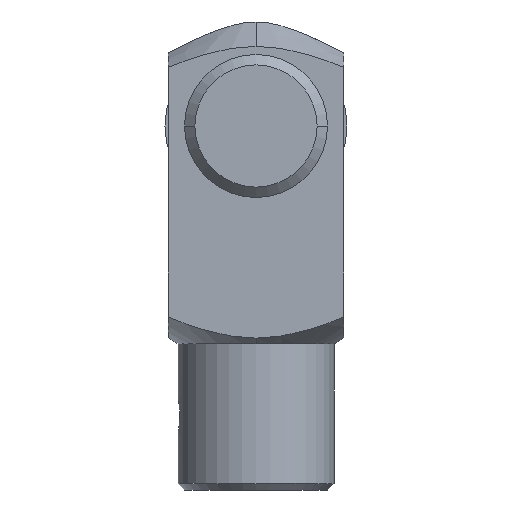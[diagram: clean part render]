
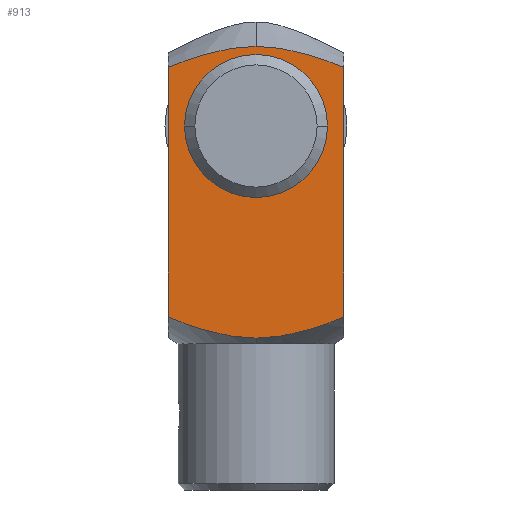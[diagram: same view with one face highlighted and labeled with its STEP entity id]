
A CAD part, left-side view. The second image highlights one B-rep face of the part: STEP entity #913.
In plain terms, the highlighted planar face has unit normal (-1, 0, 0).
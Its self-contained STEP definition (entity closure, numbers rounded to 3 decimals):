
#4 = CARTESIAN_POINT ( 'NONE',  ( -13.5, 13.5, 234.019 ) ) ;
#79 = EDGE_LOOP ( 'NONE', ( #1594, #3026 ) ) ;
#173 = VERTEX_POINT ( 'NONE', #927 ) ;
#202 = CARTESIAN_POINT ( 'NONE',  ( -13.5, 0., 192.366 ) ) ;
#215 = CARTESIAN_POINT ( 'NONE',  ( -13.5, 0., 237.247 ) ) ;
#240 = ORIENTED_EDGE ( 'NONE', *, *, #1827, .T. ) ;
#325 = DIRECTION ( 'NONE',  ( 0., 1., 0. ) ) ;
#431 = CIRCLE ( 'NONE', #2216, 7. ) ;
#454 = FACE_OUTER_BOUND ( 'NONE', #937, .T. ) ;
#479 = AXIS2_PLACEMENT_3D ( 'NONE', #1847, #2810, #1126 ) ;
#609 = VERTEX_POINT ( 'NONE', #2452 ) ;
#679 =( BOUNDED_CURVE ( )  B_SPLINE_CURVE ( 2, ( #2140, #1668, #3086 ),
 .UNSPECIFIED., .F., .F. ) 
 B_SPLINE_CURVE_WITH_KNOTS ( ( 3, 3 ),
 ( 0.433, 2.047 ),
 .UNSPECIFIED. ) 
 CURVE ( )  GEOMETRIC_REPRESENTATION_ITEM ( )  RATIONAL_B_SPLINE_CURVE ( ( 1.144, 1.381, 1.381 ) ) 
 REPRESENTATION_ITEM ( '' )  );
#741 = CARTESIAN_POINT ( 'NONE',  ( -13.5, -13.5, 195.595 ) ) ;
#750 = CARTESIAN_POINT ( 'NONE',  ( -13.5, 0., 225. ) ) ;
#817 = ORIENTED_EDGE ( 'NONE', *, *, #1956, .T. ) ;
#900 = CARTESIAN_POINT ( 'NONE',  ( -13.5, 13.5, 195.595 ) ) ;
#913 = ADVANCED_FACE ( 'NONE', ( #3126, #454 ), #2124, .T. ) ;
#914 = CARTESIAN_POINT ( 'NONE',  ( -13.5, 5.592, 237.247 ) ) ;
#927 = CARTESIAN_POINT ( 'NONE',  ( -13.5, -13.5, 234.019 ) ) ;
#937 = EDGE_LOOP ( 'NONE', ( #2607, #2367, #2696, #817, #240, #2562 ) ) ;
#949 = LINE ( 'NONE', #1890, #2859 ) ;
#1001 =( BOUNDED_CURVE ( )  B_SPLINE_CURVE ( 2, ( #1454, #2628, #741 ),
 .UNSPECIFIED., .F., .T. ) 
 B_SPLINE_CURVE_WITH_KNOTS ( ( 3, 3 ),
 ( 1.607, 3.067 ),
 .UNSPECIFIED. ) 
 CURVE ( )  GEOMETRIC_REPRESENTATION_ITEM ( )  RATIONAL_B_SPLINE_CURVE ( ( 1.262, 1.262, 1.046 ) ) 
 REPRESENTATION_ITEM ( '' )  );
#1080 = DIRECTION ( 'NONE',  ( 0., 0., 1. ) ) ;
#1126 = DIRECTION ( 'NONE',  ( 0., 0., -1. ) ) ;
#1205 = EDGE_CURVE ( 'NONE', #1877, #173, #2762, .T. ) ;
#1249 = CARTESIAN_POINT ( 'NONE',  ( -13.5, 0., 192.366 ) ) ;
#1254 = DIRECTION ( 'NONE',  ( 1., 0., 0. ) ) ;
#1303 = CARTESIAN_POINT ( 'NONE',  ( -13.5, 5.592, 192.366 ) ) ;
#1454 = CARTESIAN_POINT ( 'NONE',  ( -13.5, 0., 192.366 ) ) ;
#1490 = EDGE_CURVE ( 'NONE', #2352, #1755, #431, .T. ) ;
#1519 = CARTESIAN_POINT ( 'NONE',  ( -13.5, -7., 225. ) ) ;
#1571 = DIRECTION ( 'NONE',  ( 0., 1., 0. ) ) ;
#1576 = CARTESIAN_POINT ( 'NONE',  ( -13.5, -13.5, 195.595 ) ) ;
#1594 = ORIENTED_EDGE ( 'NONE', *, *, #2202, .T. ) ;
#1668 = CARTESIAN_POINT ( 'NONE',  ( -13.5, -5.592, 237.247 ) ) ;
#1739 = CIRCLE ( 'NONE', #2307, 7. ) ;
#1755 = VERTEX_POINT ( 'NONE', #2420 ) ;
#1817 = DIRECTION ( 'NONE',  ( 1., 0., 0. ) ) ;
#1827 = EDGE_CURVE ( 'NONE', #609, #2979, #1885, .T. ) ;
#1847 = CARTESIAN_POINT ( 'NONE',  ( -13.5, -13.5, 191.5 ) ) ;
#1874 = VECTOR ( 'NONE', #1080, 1000. ) ;
#1877 = VERTEX_POINT ( 'NONE', #1576 ) ;
#1885 =( BOUNDED_CURVE ( )  B_SPLINE_CURVE ( 2, ( #215, #914, #4 ),
 .UNSPECIFIED., .F., .F. ) 
 B_SPLINE_CURVE_WITH_KNOTS ( ( 3, 3 ),
 ( 2.047, 3.662 ),
 .UNSPECIFIED. ) 
 CURVE ( )  GEOMETRIC_REPRESENTATION_ITEM ( )  RATIONAL_B_SPLINE_CURVE ( ( 1.381, 1.381, 1.144 ) ) 
 REPRESENTATION_ITEM ( '' )  );
#1890 = CARTESIAN_POINT ( 'NONE',  ( -13.5, 13.5, 191.5 ) ) ;
#1900 =( BOUNDED_CURVE ( )  B_SPLINE_CURVE ( 2, ( #2752, #1303, #202 ),
 .UNSPECIFIED., .F., .F. ) 
 B_SPLINE_CURVE_WITH_KNOTS ( ( 3, 3 ),
 ( 0.147, 1.607 ),
 .UNSPECIFIED. ) 
 CURVE ( )  GEOMETRIC_REPRESENTATION_ITEM ( )  RATIONAL_B_SPLINE_CURVE ( ( 1.046, 1.262, 1.262 ) ) 
 REPRESENTATION_ITEM ( '' )  );
#1956 = EDGE_CURVE ( 'NONE', #173, #609, #679, .T. ) ;
#2124 = PLANE ( 'NONE',  #479 ) ;
#2140 = CARTESIAN_POINT ( 'NONE',  ( -13.5, -13.5, 234.019 ) ) ;
#2202 = EDGE_CURVE ( 'NONE', #1755, #2352, #1739, .T. ) ;
#2216 = AXIS2_PLACEMENT_3D ( 'NONE', #750, #1254, #325 ) ;
#2262 = CARTESIAN_POINT ( 'NONE',  ( -13.5, -13.5, 191.5 ) ) ;
#2280 = EDGE_CURVE ( 'NONE', #2643, #2979, #949, .T. ) ;
#2307 = AXIS2_PLACEMENT_3D ( 'NONE', #3021, #1817, #1571 ) ;
#2352 = VERTEX_POINT ( 'NONE', #1519 ) ;
#2357 = VERTEX_POINT ( 'NONE', #1249 ) ;
#2367 = ORIENTED_EDGE ( 'NONE', *, *, #2945, .T. ) ;
#2420 = CARTESIAN_POINT ( 'NONE',  ( -13.5, 7., 225. ) ) ;
#2452 = CARTESIAN_POINT ( 'NONE',  ( -13.5, 0., 237.247 ) ) ;
#2539 = EDGE_CURVE ( 'NONE', #2643, #2357, #1900, .T. ) ;
#2562 = ORIENTED_EDGE ( 'NONE', *, *, #2280, .F. ) ;
#2607 = ORIENTED_EDGE ( 'NONE', *, *, #2539, .T. ) ;
#2628 = CARTESIAN_POINT ( 'NONE',  ( -13.5, -5.592, 192.366 ) ) ;
#2643 = VERTEX_POINT ( 'NONE', #900 ) ;
#2650 = DIRECTION ( 'NONE',  ( 0., 0., 1. ) ) ;
#2696 = ORIENTED_EDGE ( 'NONE', *, *, #1205, .T. ) ;
#2752 = CARTESIAN_POINT ( 'NONE',  ( -13.5, 13.5, 195.595 ) ) ;
#2762 = LINE ( 'NONE', #2262, #1874 ) ;
#2810 = DIRECTION ( 'NONE',  ( -1., 0., 0. ) ) ;
#2859 = VECTOR ( 'NONE', #2650, 1000. ) ;
#2945 = EDGE_CURVE ( 'NONE', #2357, #1877, #1001, .T. ) ;
#2979 = VERTEX_POINT ( 'NONE', #3120 ) ;
#3021 = CARTESIAN_POINT ( 'NONE',  ( -13.5, 0., 225. ) ) ;
#3026 = ORIENTED_EDGE ( 'NONE', *, *, #1490, .T. ) ;
#3086 = CARTESIAN_POINT ( 'NONE',  ( -13.5, 0., 237.247 ) ) ;
#3120 = CARTESIAN_POINT ( 'NONE',  ( -13.5, 13.5, 234.019 ) ) ;
#3126 = FACE_BOUND ( 'NONE', #79, .T. ) ;
